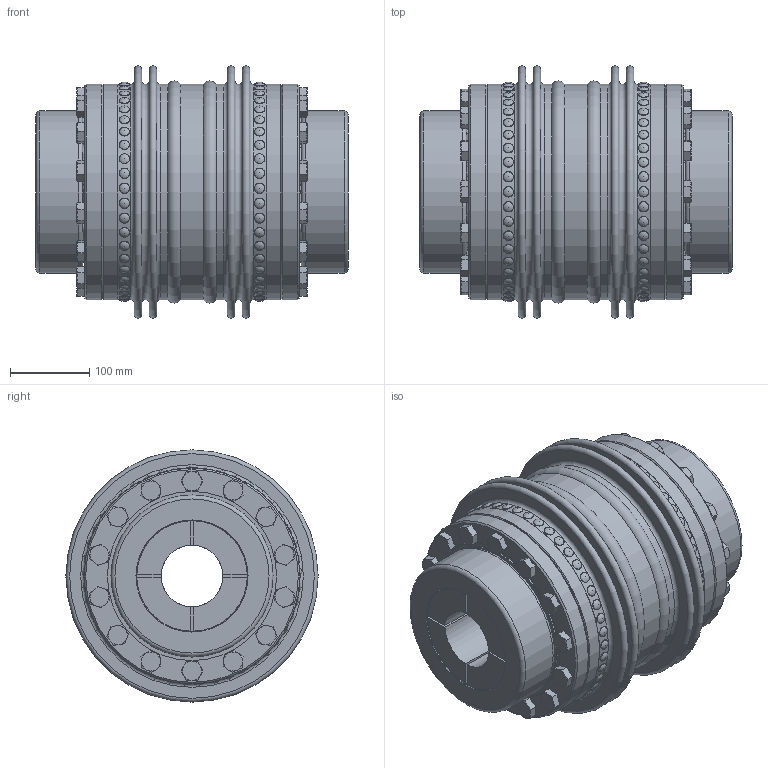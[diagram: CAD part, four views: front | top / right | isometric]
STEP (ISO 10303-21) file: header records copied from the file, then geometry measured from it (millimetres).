
FILE_DESCRIPTION(/* description */ ('Unknown'),/* implementation_level */ '2;1');
FILE_NAME(/* name */ 'KXL 12 A-A',/* time_stamp */ '2020-07-03T11:09:57+02:00',/* author */ ('Unknown'),/* organization */ ('Unknown'),/* preprocessor_version */ 'ST-DEVELOPER v16.7',/* originating_system */ 'DEX',/* authorisation */ $);
FILE_SCHEMA (('AUTOMOTIVE_DESIGN {1 0 10303 214 3 1 1}'));
Length unit declared in the file: millimetre
Products named in the file (1): KXL 12 A-A2
Bounding box: 394.8 x 319 x 319 mm (x, y, z)
Volume: 7201166.5 mm3; surface area: 1350531.1 mm2
Topology: 1 solids, 49 shells, 1726 faces, 3837 edges, 2495 vertices
Faces by surface type: plane 712, cylinder 390, cone 320, torus 304
Full cylindrical faces by diameter (mm): 6.4 x180, 11.835 x18, 12 x18, 14 x18, 15 x18, 16 x28, 17 x28, 20.5 x18, 22.5 x28, 78 x2, 202 x2, 205 x2, 208 x2, 214 x6, 256.5 x2, 268.208 x2, 268.906 x1, 272 x2, 272.208 x2, 272.906 x1, 273 x4
Entity records: 42722 total; most frequent: CARTESIAN_POINT 10055, DIRECTION 6626, ORIENTED_EDGE 5332, FACE_BOUND 2996, AXIS2_PLACEMENT_3D 2981, EDGE_LOOP 2888, EDGE_CURVE 2666, VERTEX_POINT 2158
